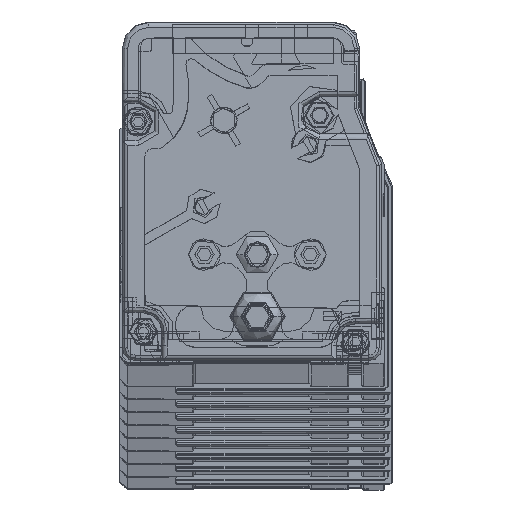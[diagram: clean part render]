
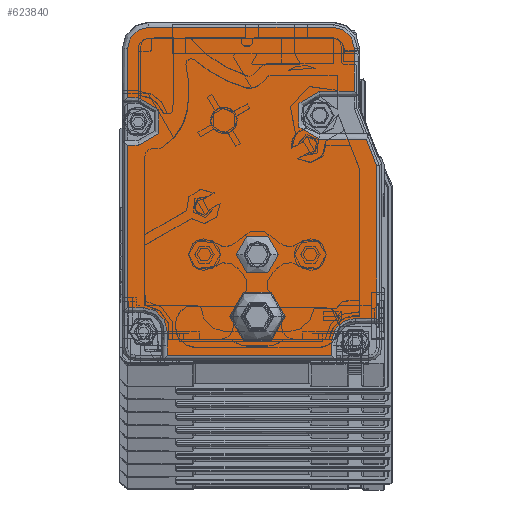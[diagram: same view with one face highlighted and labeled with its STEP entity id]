
A CAD part, top view. The second image highlights one B-rep face of the part: STEP entity #623840.
In plain terms, the highlighted planar face has unit normal (0, 0, 1).
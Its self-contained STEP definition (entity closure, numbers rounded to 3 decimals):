
#621730=CARTESIAN_POINT('',(-20.265,1.758,
4772.39));
#621740=DIRECTION('',(0.,0.,-1.));
#621750=DIRECTION('',(-1.,0.,0.));
#621760=AXIS2_PLACEMENT_3D('',#621730,#621740,#621750);
#621770=PLANE('',#621760);
#621780=CARTESIAN_POINT('',(-44.056,10.421,
4772.39));
#621790=DIRECTION('',(0.,0.,-1.));
#621800=DIRECTION('',(-1.,0.,0.));
#621810=AXIS2_PLACEMENT_3D('',#621780,#621790,#621800);
#621820=CIRCLE('',#621810,5.);
#621830=CARTESIAN_POINT('',(-49.056,10.421,
4772.39));
#621840=VERTEX_POINT('',#621830);
#621850=CARTESIAN_POINT('',(-39.056,10.421,
4772.39));
#621860=VERTEX_POINT('',#621850);
#621870=EDGE_CURVE('',#621840,#621860,#621820,.T.);
#621880=ORIENTED_EDGE('',*,*,#621870,.T.);
#621890=EDGE_CURVE('',#621860,#621840,#621820,.T.);
#621900=ORIENTED_EDGE('',*,*,#621890,.T.);
#621910=EDGE_LOOP('',(#621900,#621880));
#621920=FACE_BOUND('',#621910,.T.);
#621930=CARTESIAN_POINT('',(-44.059,22.124,
4772.39));
#621940=DIRECTION('',(0.,0.,1.));
#621950=DIRECTION('',(-1.,0.,0.));
#621960=AXIS2_PLACEMENT_3D('',#621930,#621940,#621950);
#621970=CIRCLE('',#621960,4.);
#621980=CARTESIAN_POINT('',(-40.059,22.124,
4772.39));
#621990=VERTEX_POINT('',#621980);
#622000=CARTESIAN_POINT('',(-48.059,22.124,
4772.39));
#622010=VERTEX_POINT('',#622000);
#622020=EDGE_CURVE('',#621990,#622010,#621970,.T.);
#622030=ORIENTED_EDGE('',*,*,#622020,.F.);
#622040=EDGE_CURVE('',#622010,#621990,#621970,.T.);
#622050=ORIENTED_EDGE('',*,*,#622040,.F.);
#622060=EDGE_LOOP('',(#622050,#622030));
#622070=FACE_BOUND('',#622060,.T.);
#622080=CARTESIAN_POINT('',(-61.059,2.124,
4772.39));
#622090=DIRECTION('',(0.,-1.,0.));
#622100=VECTOR('',#622090,1.);
#622110=LINE('',#622080,#622100);
#622120=CARTESIAN_POINT('',(-61.059,7.624,
4772.39));
#622130=VERTEX_POINT('',#622120);
#622140=CARTESIAN_POINT('',(-61.059,3.124,
4772.39));
#622150=VERTEX_POINT('',#622140);
#622160=EDGE_CURVE('',#622130,#622150,#622110,.T.);
#622170=ORIENTED_EDGE('',*,*,#622160,.T.);
#622180=CARTESIAN_POINT('',(-65.559,7.624,
4772.39));
#622190=DIRECTION('',(0.,0.,-1.));
#622200=DIRECTION('',(-1.,0.,0.));
#622210=AXIS2_PLACEMENT_3D('',#622180,#622190,#622200);
#622220=CIRCLE('',#622210,4.5);
#622230=CARTESIAN_POINT('',(-65.559,12.124,
4772.39));
#622240=VERTEX_POINT('',#622230);
#622250=EDGE_CURVE('',#622240,#622130,#622220,.T.);
#622260=ORIENTED_EDGE('',*,*,#622250,.T.);
#622270=CARTESIAN_POINT('',(-20.559,12.124,
4772.39));
#622280=DIRECTION('',(1.,0.,0.));
#622290=VECTOR('',#622280,1.);
#622300=LINE('',#622270,#622290);
#622310=CARTESIAN_POINT('',(-68.559,12.124,
4772.39));
#622320=VERTEX_POINT('',#622310);
#622330=EDGE_CURVE('',#622320,#622240,#622300,.T.);
#622340=ORIENTED_EDGE('',*,*,#622330,.T.);
#622350=CARTESIAN_POINT('',(-68.559,2.124,
4772.39));
#622360=DIRECTION('',(0.,-1.,0.));
#622370=VECTOR('',#622360,1.);
#622380=LINE('',#622350,#622370);
#622390=CARTESIAN_POINT('',(-68.559,42.727,
4772.39));
#622400=VERTEX_POINT('',#622390);
#622410=EDGE_CURVE('',#622400,#622320,#622380,.T.);
#622420=ORIENTED_EDGE('',*,*,#622410,.T.);
#622430=CARTESIAN_POINT('',(-20.559,42.727,
4772.39));
#622440=DIRECTION('',(-1.,0.,0.));
#622450=VECTOR('',#622440,1.);
#622460=LINE('',#622430,#622450);
#622470=CARTESIAN_POINT('',(-66.559,42.727,
4772.39));
#622480=VERTEX_POINT('',#622470);
#622490=EDGE_CURVE('',#622480,#622400,#622460,.T.);
#622500=ORIENTED_EDGE('',*,*,#622490,.T.);
#622510=CARTESIAN_POINT('',(-66.559,47.227,
4772.39));
#622520=DIRECTION('',(0.,0.,-1.));
#622530=DIRECTION('',(-1.,0.,0.));
#622540=AXIS2_PLACEMENT_3D('',#622510,#622520,#622530);
#622550=CIRCLE('',#622540,4.5);
#622560=CARTESIAN_POINT('',(-66.559,51.727,
4772.39));
#622570=VERTEX_POINT('',#622560);
#622580=EDGE_CURVE('',#622570,#622480,#622550,.T.);
#622590=ORIENTED_EDGE('',*,*,#622580,.T.);
#622600=CARTESIAN_POINT('',(-20.559,51.727,
4772.39));
#622610=DIRECTION('',(1.,0.,0.));
#622620=VECTOR('',#622610,1.);
#622630=LINE('',#622600,#622620);
#622640=CARTESIAN_POINT('',(-68.559,51.727,
4772.39));
#622650=VERTEX_POINT('',#622640);
#622660=EDGE_CURVE('',#622650,#622570,#622630,.T.);
#622670=ORIENTED_EDGE('',*,*,#622660,.T.);
#622680=CARTESIAN_POINT('',(-68.559,2.124,
4772.39));
#622690=DIRECTION('',(0.,-1.,0.));
#622700=VECTOR('',#622690,1.);
#622710=LINE('',#622680,#622700);
#622720=CARTESIAN_POINT('',(-68.559,61.024,
4772.39));
#622730=VERTEX_POINT('',#622720);
#622740=EDGE_CURVE('',#622730,#622650,#622710,.T.);
#622750=ORIENTED_EDGE('',*,*,#622740,.T.);
#622760=CARTESIAN_POINT('',(-64.559,61.024,
4772.39));
#622770=DIRECTION('',(0.,0.,1.));
#622780=DIRECTION('',(1.,0.,0.));
#622790=AXIS2_PLACEMENT_3D('',#622760,#622770,#622780);
#622800=CIRCLE('',#622790,4.);
#622810=CARTESIAN_POINT('',(-64.559,65.024,
4772.39));
#622820=VERTEX_POINT('',#622810);
#622830=EDGE_CURVE('',#622820,#622730,#622800,.T.);
#622840=ORIENTED_EDGE('',*,*,#622830,.T.);
#622850=CARTESIAN_POINT('',(-20.559,65.024,
4772.39));
#622860=DIRECTION('',(-1.,0.,0.));
#622870=VECTOR('',#622860,1.);
#622880=LINE('',#622850,#622870);
#622890=CARTESIAN_POINT('',(-29.759,65.024,
4772.39));
#622900=VERTEX_POINT('',#622890);
#622910=EDGE_CURVE('',#622900,#622820,#622880,.T.);
#622920=ORIENTED_EDGE('',*,*,#622910,.T.);
#622930=CARTESIAN_POINT('',(-29.759,61.024,
4772.39));
#622940=DIRECTION('',(0.,0.,1.));
#622950=DIRECTION('',(1.,0.,0.));
#622960=AXIS2_PLACEMENT_3D('',#622930,#622940,#622950);
#622970=CIRCLE('',#622960,4.);
#622980=CARTESIAN_POINT('',(-25.759,61.024,
4772.39));
#622990=VERTEX_POINT('',#622980);
#623000=EDGE_CURVE('',#622990,#622900,#622970,.T.);
#623010=ORIENTED_EDGE('',*,*,#623000,.T.);
#623020=CARTESIAN_POINT('',(-25.759,2.124,
4772.39));
#623030=DIRECTION('',(0.,1.,0.));
#623040=VECTOR('',#623030,1.);
#623050=LINE('',#623020,#623040);
#623060=CARTESIAN_POINT('',(-25.759,52.924,
4772.39));
#623070=VERTEX_POINT('',#623060);
#623080=EDGE_CURVE('',#623070,#622990,#623050,.T.);
#623090=ORIENTED_EDGE('',*,*,#623080,.T.);
#623100=CARTESIAN_POINT('',(-20.559,52.924,
4772.39));
#623110=DIRECTION('',(-1.,0.,0.));
#623120=VECTOR('',#623110,1.);
#623130=LINE('',#623100,#623120);
#623140=CARTESIAN_POINT('',(-32.309,52.924,
4772.39));
#623150=VERTEX_POINT('',#623140);
#623160=EDGE_CURVE('',#623070,#623150,#623130,.T.);
#623170=ORIENTED_EDGE('',*,*,#623160,.F.);
#623180=CARTESIAN_POINT('',(-32.309,48.424,
4772.39));
#623190=DIRECTION('',(0.,0.,-1.));
#623200=DIRECTION('',(-1.,0.,0.));
#623210=AXIS2_PLACEMENT_3D('',#623180,#623190,#623200);
#623220=CIRCLE('',#623210,4.5);
#623230=CARTESIAN_POINT('',(-32.309,43.924,
4772.39));
#623240=VERTEX_POINT('',#623230);
#623250=EDGE_CURVE('',#623240,#623150,#623220,.T.);
#623260=ORIENTED_EDGE('',*,*,#623250,.T.);
#623270=CARTESIAN_POINT('',(-20.559,43.924,
4772.39));
#623280=DIRECTION('',(-1.,0.,0.));
#623290=VECTOR('',#623280,1.);
#623300=LINE('',#623270,#623290);
#623310=CARTESIAN_POINT('',(-23.499,43.924,
4772.39));
#623320=VERTEX_POINT('',#623310);
#623330=EDGE_CURVE('',#623320,#623240,#623300,.T.);
#623340=ORIENTED_EDGE('',*,*,#623330,.T.);
#623350=CARTESIAN_POINT('',(-7.243,2.124,
4772.39));
#623360=DIRECTION('',(0.362,-0.932,0.));
#623370=VECTOR('',#623360,1.);
#623380=LINE('',#623350,#623370);
#623390=CARTESIAN_POINT('',(-21.559,38.937,
4772.39));
#623400=VERTEX_POINT('',#623390);
#623410=EDGE_CURVE('',#623320,#623400,#623380,.T.);
#623420=ORIENTED_EDGE('',*,*,#623410,.F.);
#623430=CARTESIAN_POINT('',(-21.559,2.124,
4772.39));
#623440=DIRECTION('',(0.,-1.,0.));
#623450=VECTOR('',#623440,1.);
#623460=LINE('',#623430,#623450);
#623470=CARTESIAN_POINT('',(-21.559,10.124,
4772.39));
#623480=VERTEX_POINT('',#623470);
#623490=EDGE_CURVE('',#623400,#623480,#623460,.T.);
#623500=ORIENTED_EDGE('',*,*,#623490,.F.);
#623510=CARTESIAN_POINT('',(-20.559,10.124,
4772.39));
#623520=DIRECTION('',(1.,0.,0.));
#623530=VECTOR('',#623520,1.);
#623540=LINE('',#623510,#623530);
#623550=CARTESIAN_POINT('',(-25.559,10.124,
4772.39));
#623560=VERTEX_POINT('',#623550);
#623570=EDGE_CURVE('',#623560,#623480,#623540,.T.);
#623580=ORIENTED_EDGE('',*,*,#623570,.T.);
#623590=CARTESIAN_POINT('',(-25.559,5.624,
4772.39));
#623600=DIRECTION('',(0.,0.,-1.));
#623610=DIRECTION('',(-1.,0.,0.));
#623620=AXIS2_PLACEMENT_3D('',#623590,#623600,#623610);
#623630=CIRCLE('',#623620,4.5);
#623640=CARTESIAN_POINT('',(-30.059,5.624,
4772.39));
#623650=VERTEX_POINT('',#623640);
#623660=EDGE_CURVE('',#623650,#623560,#623630,.T.);
#623670=ORIENTED_EDGE('',*,*,#623660,.T.);
#623680=CARTESIAN_POINT('',(-30.059,2.124,
4772.39));
#623690=DIRECTION('',(0.,1.,0.));
#623700=VECTOR('',#623690,1.);
#623710=LINE('',#623680,#623700);
#623720=CARTESIAN_POINT('',(-30.059,3.124,
4772.39));
#623730=VERTEX_POINT('',#623720);
#623740=EDGE_CURVE('',#623730,#623650,#623710,.T.);
#623750=ORIENTED_EDGE('',*,*,#623740,.T.);
#623760=CARTESIAN_POINT('',(-20.559,3.124,
4772.39));
#623770=DIRECTION('',(-1.,0.,0.));
#623780=VECTOR('',#623770,1.);
#623790=LINE('',#623760,#623780);
#623800=EDGE_CURVE('',#623730,#622150,#623790,.T.);
#623810=ORIENTED_EDGE('',*,*,#623800,.F.);
#623820=EDGE_LOOP('',(#623810,#623750,#623670,#623580,#623500,#623420,
#623340,#623260,#623170,#623090,#623010,#622920,#622840,#622750,#622670,
#622590,#622500,#622420,#622340,#622260,#622170));
#623830=FACE_OUTER_BOUND('',#623820,.T.);
#623840=ADVANCED_FACE('',(#621920,#622070,#623830),#621770,.F.);
